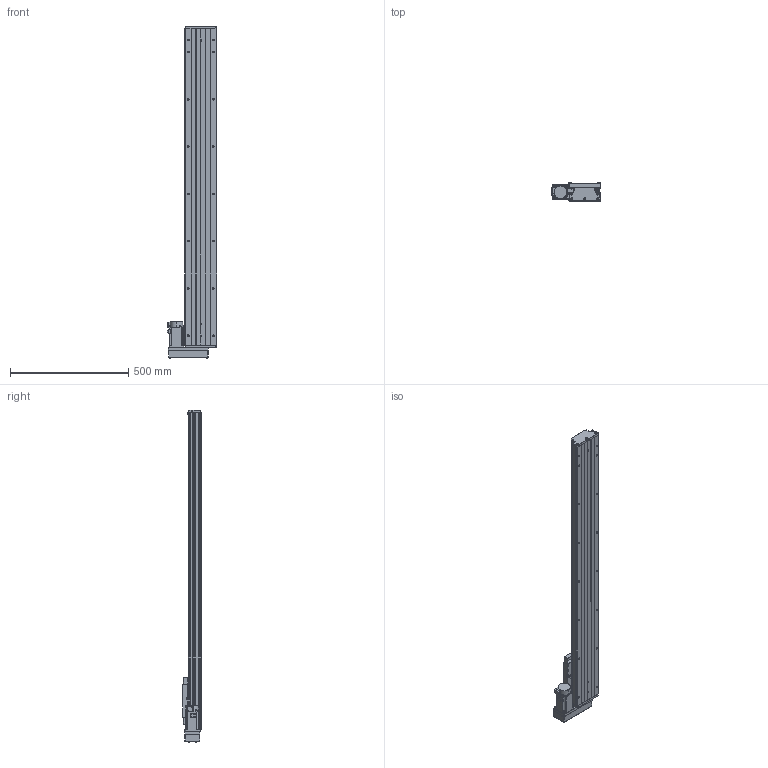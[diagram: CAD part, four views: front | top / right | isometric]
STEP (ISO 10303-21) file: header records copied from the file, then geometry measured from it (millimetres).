
FILE_DESCRIPTION (( 'STEP AP203' ), '1' );
FILE_NAME ('GTH14-1100-BL-M40-C4.step', '2023-06-30T08:38:05', ( '微软用户' ), ( '微软中国' ), 'SwSTEP 2.0', 'SolidWorks 2020', '' );
FILE_SCHEMA (( 'CONFIG_CONTROL_DESIGN' ));
Length unit declared in the file: millimetre
Products named in the file (19): GTH14-033; GB1155-6X6; GTH14-031; GTH14-1100-BL-M40-C4; GBT70.1 M5℅16; GBT 70.2-M3¡Á5_M3¡Á6; CTHA60-017; す晦芛蹟隊 M3℅5; GTH14-001_1100; EE_SX911P_R; HG-KN43J-S100; GTH14-002_GTH14-002; CTHA60-016; GBT 70.2-M4¡Á35_M4¡Á35; GTH14-004; GBT 70.1-M3℅5; GTH14-015-2_CTHA86-015-2; GTH14-005; GBT77-2000 M3×3
Assembly tree (58 placements, depth 2):
  GTH14-1100-BL-M40-C4
    GTH14-001_1100
    GTH14-002_GTH14-002
    GTH14-004
    GTH14-005
    GB1155-6X6  x2
    GBT70.1 M5℅16  x10
    CTHA60-017  x3
    EE_SX911P_R  x3
    CTHA60-016  x2
    GBT 70.1-M3℅5  x6
    GBT77-2000 M3×3  x6
    GTH14-031
    GBT 70.2-M3¡Á5_M3¡Á6  x8
    す晦芛蹟隊 M3℅5  x6
    HG-KN43J-S100
    GBT 70.2-M4¡Á35_M4¡Á35  x4
    GTH14-015-2_CTHA86-015-2
    GTH14-033
Bounding box: 209.3 x 78 x 1404.2 mm (x, y, z)
Volume: 7443374.4 mm3; surface area: 1188438.2 mm2
Topology: 61 solids, 61 shells, 2483 faces, 5905 edges, 3642 vertices
Faces by surface type: plane 1313, cylinder 680, cone 314, torus 124, sphere 32, bspline 20
Entity records: 45082 total; most frequent: CARTESIAN_POINT 10007, DIRECTION 6669, ORIENTED_EDGE 6500, EDGE_CURVE 3250, AXIS2_PLACEMENT_3D 2296, VECTOR 2077, LINE 2077, VERTEX_POINT 2060
